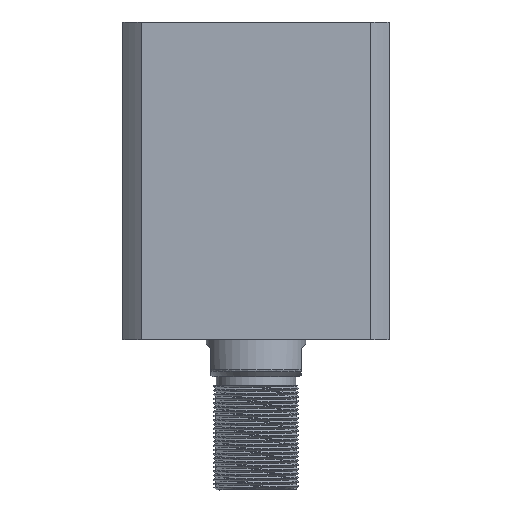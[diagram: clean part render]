
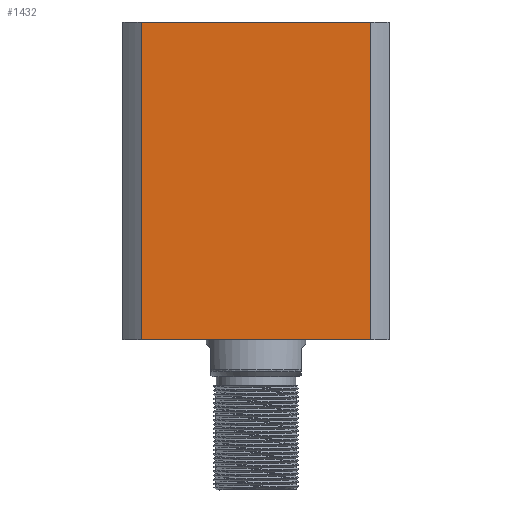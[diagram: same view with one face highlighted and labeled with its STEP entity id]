
A CAD part, front view. The second image highlights one B-rep face of the part: STEP entity #1432.
In plain terms, the highlighted planar face has unit normal (0, -1, 0) as drawn and (0, 1, 0) by its records, which use the part's own axes.
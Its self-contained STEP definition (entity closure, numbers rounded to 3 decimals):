
#1213 = EDGE_LOOP ( 'NONE', ( #13789, #14336, #6074, #11336 ) ) ;
#1432 = ADVANCED_FACE ( 'NONE', ( #2127 ), #4891, .F. ) ;
#1457 = VERTEX_POINT ( 'NONE', #7222 ) ;
#1860 = VECTOR ( 'NONE', #14464, 1000. ) ;
#2127 = FACE_OUTER_BOUND ( 'NONE', #1213, .T. ) ;
#3808 = EDGE_CURVE ( 'NONE', #1457, #22352, #6209, .T. ) ;
#3939 = CARTESIAN_POINT ( 'NONE',  ( 40.435, 47., -5888. ) ) ;
#4337 = CARTESIAN_POINT ( 'NONE',  ( -40.435, 47., -5888. ) ) ;
#4628 = EDGE_CURVE ( 'NONE', #17779, #1457, #20328, .T. ) ;
#4814 = CARTESIAN_POINT ( 'NONE',  ( -47., 47., 112. ) ) ;
#4891 = PLANE ( 'NONE',  #21533 ) ;
#5186 = DIRECTION ( 'NONE',  ( 0., -1., 0. ) ) ;
#5400 = DIRECTION ( 'NONE',  ( 0., 0., -1. ) ) ;
#6074 = ORIENTED_EDGE ( 'NONE', *, *, #15553, .F. ) ;
#6209 = LINE ( 'NONE', #17245, #15041 ) ;
#6321 = CARTESIAN_POINT ( 'NONE',  ( -40.435, 47., 112. ) ) ;
#6565 = VECTOR ( 'NONE', #13753, 1000. ) ;
#7222 = CARTESIAN_POINT ( 'NONE',  ( 40.435, 47., 112. ) ) ;
#8260 = LINE ( 'NONE', #4337, #16992 ) ;
#9753 = VERTEX_POINT ( 'NONE', #18515 ) ;
#11084 = CARTESIAN_POINT ( 'NONE',  ( 40.435, 47., 0. ) ) ;
#11336 = ORIENTED_EDGE ( 'NONE', *, *, #3808, .F. ) ;
#13753 = DIRECTION ( 'NONE',  ( -1., 0., 0. ) ) ;
#13789 = ORIENTED_EDGE ( 'NONE', *, *, #4628, .F. ) ;
#14336 = ORIENTED_EDGE ( 'NONE', *, *, #18195, .T. ) ;
#14464 = DIRECTION ( 'NONE',  ( 0., 0., 1. ) ) ;
#15041 = VECTOR ( 'NONE', #18710, 1000. ) ;
#15553 = EDGE_CURVE ( 'NONE', #22352, #9753, #8260, .T. ) ;
#15912 = LINE ( 'NONE', #17070, #6565 ) ;
#16590 = DIRECTION ( 'NONE',  ( 0., 0., -1. ) ) ;
#16992 = VECTOR ( 'NONE', #16590, 1000. ) ;
#17070 = CARTESIAN_POINT ( 'NONE',  ( -47., 47., 0. ) ) ;
#17245 = CARTESIAN_POINT ( 'NONE',  ( -47., 47., 112. ) ) ;
#17779 = VERTEX_POINT ( 'NONE', #11084 ) ;
#18195 = EDGE_CURVE ( 'NONE', #17779, #9753, #15912, .T. ) ;
#18515 = CARTESIAN_POINT ( 'NONE',  ( -40.435, 47., 0. ) ) ;
#18710 = DIRECTION ( 'NONE',  ( -1., 0., 0. ) ) ;
#20328 = LINE ( 'NONE', #3939, #1860 ) ;
#21533 = AXIS2_PLACEMENT_3D ( 'NONE', #4814, #5186, #5400 ) ;
#22352 = VERTEX_POINT ( 'NONE', #6321 ) ;
